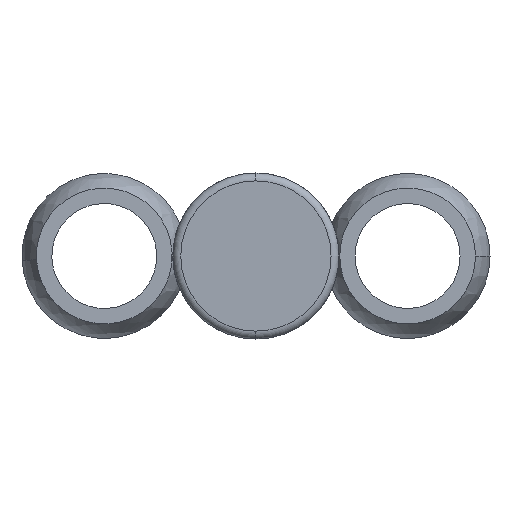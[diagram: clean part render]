
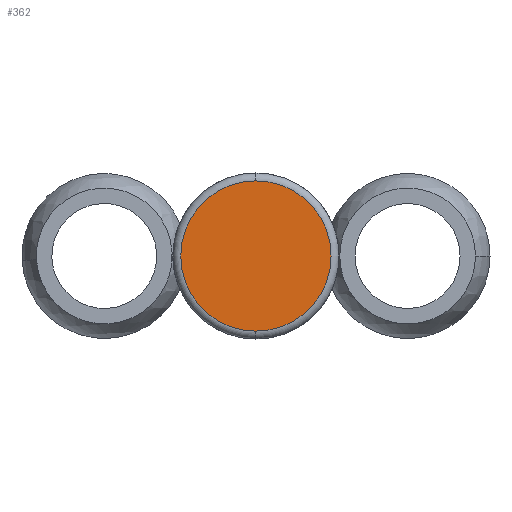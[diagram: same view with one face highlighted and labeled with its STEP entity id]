
A CAD part, front view. The second image highlights one B-rep face of the part: STEP entity #362.
In plain terms, the highlighted planar face has unit normal (0, -1, 0).
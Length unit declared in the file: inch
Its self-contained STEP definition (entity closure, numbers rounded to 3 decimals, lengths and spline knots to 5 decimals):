
#13 = ORIENTED_EDGE ( 'NONE', *, *, #285, .T. ) ;
#48 = CARTESIAN_POINT ( 'NONE',  ( 0., -1.063, 0. ) ) ;
#108 = CARTESIAN_POINT ( 'NONE',  ( 0., -1.063, -0.28496 ) ) ;
#158 = CARTESIAN_POINT ( 'NONE',  ( 0., -1.063, 0.28496 ) ) ;
#229 = DIRECTION ( 'NONE',  ( 0., -1., 0. ) ) ;
#281 = DIRECTION ( 'NONE',  ( 0., 1., 0. ) ) ;
#285 = EDGE_CURVE ( 'NONE', #1289, #468, #1547, .T. ) ;
#362 = ADVANCED_FACE ( 'NONE', ( #562 ), #1282, .F. ) ;
#399 = CARTESIAN_POINT ( 'NONE',  ( 0., -1.063, 0. ) ) ;
#453 = ORIENTED_EDGE ( 'NONE', *, *, #555, .T. ) ;
#468 = VERTEX_POINT ( 'NONE', #158 ) ;
#503 = CARTESIAN_POINT ( 'NONE',  ( 0., -1.063, 0. ) ) ;
#555 = EDGE_CURVE ( 'NONE', #468, #1289, #703, .T. ) ;
#562 = FACE_OUTER_BOUND ( 'NONE', #1408, .T. ) ;
#703 = CIRCLE ( 'NONE', #1292, 0.28496 ) ;
#996 = AXIS2_PLACEMENT_3D ( 'NONE', #503, #229, #1003 ) ;
#1003 = DIRECTION ( 'NONE',  ( 0., 0., 1. ) ) ;
#1282 = PLANE ( 'NONE',  #1388 ) ;
#1289 = VERTEX_POINT ( 'NONE', #108 ) ;
#1292 = AXIS2_PLACEMENT_3D ( 'NONE', #48, #1451, #1339 ) ;
#1339 = DIRECTION ( 'NONE',  ( 0., 0., 1. ) ) ;
#1388 = AXIS2_PLACEMENT_3D ( 'NONE', #399, #281, #1400 ) ;
#1400 = DIRECTION ( 'NONE',  ( 0., 0., 1. ) ) ;
#1408 = EDGE_LOOP ( 'NONE', ( #453, #13 ) ) ;
#1451 = DIRECTION ( 'NONE',  ( 0., -1., 0. ) ) ;
#1547 = CIRCLE ( 'NONE', #996, 0.28496 ) ;
